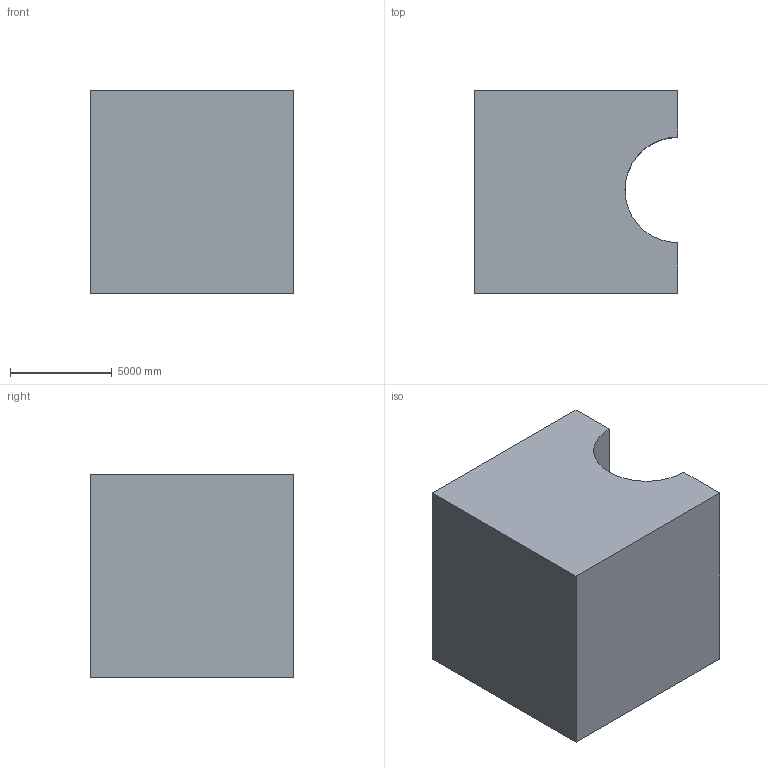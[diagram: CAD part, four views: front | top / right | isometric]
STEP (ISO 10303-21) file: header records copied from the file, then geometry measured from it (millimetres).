
FILE_DESCRIPTION (( 'STEP AP203' ), '1' );
FILE_NAME ('1003.STEP', '2022-08-18T12:23:02', ( 'user' ), ( '' ), 'SwSTEP 2.0', 'SolidWorks 2021', '' );
FILE_SCHEMA (( 'CONFIG_CONTROL_DESIGN' ));
Length unit declared in the file: centimetre
Products named in the file (1): 1003
Bounding box: 10000 x 10000 x 10000 mm (x, y, z)
Volume: 877605857409.6 mm3; surface area: 627630177.1 mm2
Topology: 1 solids, 1 shells, 11 faces, 24 edges, 16 vertices
Faces by surface type: plane 8, cylinder 3
Entity records: 381 total; most frequent: DIRECTION 54, CARTESIAN_POINT 52, ORIENTED_EDGE 48, EDGE_CURVE 24, LINE 18, AXIS2_PLACEMENT_3D 18, VECTOR 18, VERTEX_POINT 16
